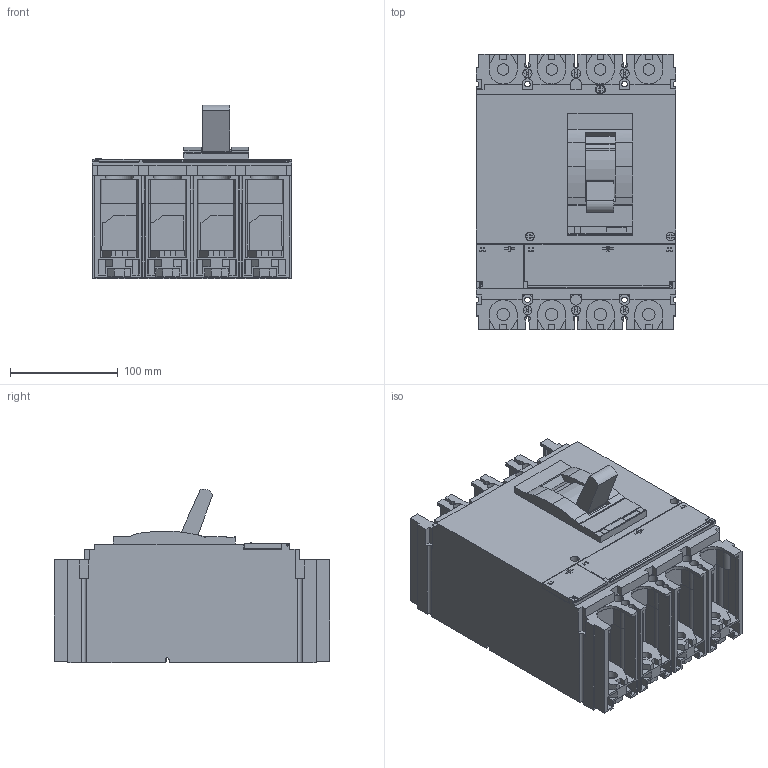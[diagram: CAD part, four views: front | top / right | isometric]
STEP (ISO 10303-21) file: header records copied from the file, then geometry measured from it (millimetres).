
FILE_DESCRIPTION((''),'2;1');
FILE_NAME('1684842341444_ASM','2023-05-23T17:16:06',('SESA644935'),('Schneider-Electric'),'CREO PARAMETRIC BY PTC INC, 2021284','CREO PARAMETRIC BY PTC INC, 2021284','');
FILE_SCHEMA(('AP242_MANAGED_MODEL_BASED_3D_ENGINEERING_MIM_LF { 1 0 10303 442 1 1 4 }'));
Length unit declared in the file: millimetre
Products named in the file (6): EMPTYNODE_1684842341476_ASM; MODEL-C2-4P-ETS; MODEL-C2-4P-LEFTCAP; MODEL-C2-3P-ETS-CAP; MODEL-C2-4P-ETS-3D_ASM; 1684842341444_ASM
Assembly tree (5 placements, depth 3):
  1684842341444_ASM
    EMPTYNODE_1684842341476_ASM
    MODEL-C2-4P-ETS-3D_ASM
      MODEL-C2-4P-ETS
      MODEL-C2-4P-LEFTCAP
      MODEL-C2-3P-ETS-CAP
Bounding box: 184.7 x 255 x 161.05 mm (x, y, z)
Volume: 4316706.1 mm3; surface area: 329207.2 mm2
Topology: 6 solids, 6 shells, 1330 faces, 3685 edges, 2428 vertices
Faces by surface type: plane 1100, cylinder 228, extrusion 2
Entity records: 58057 total; most frequent: CARTESIAN_POINT 7602, ORIENTED_EDGE 7370, DIRECTION 6873, PRESENTATION_STYLE_ASSIGNMENT 4093, STYLED_ITEM 3691, CURVE_STYLE 3685, EDGE_CURVE 3685, VECTOR 3133
